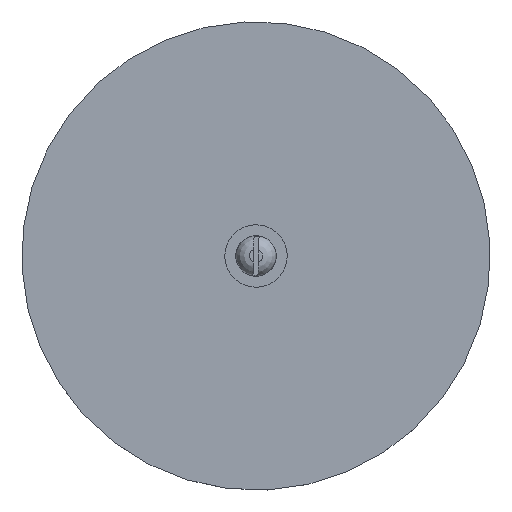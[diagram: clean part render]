
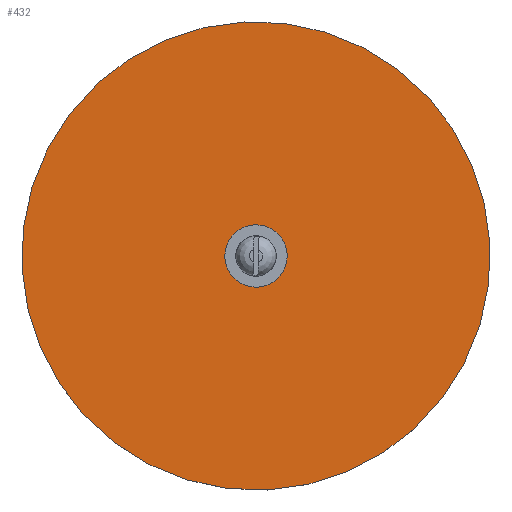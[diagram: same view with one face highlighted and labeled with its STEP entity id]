
A CAD part, top view. The second image highlights one B-rep face of the part: STEP entity #432.
In plain terms, the highlighted planar face has unit normal (0, 0, 1).
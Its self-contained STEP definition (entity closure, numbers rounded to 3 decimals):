
#58=FACE_BOUND('',#130,.T.);
#68=PLANE('',#562);
#97=FACE_OUTER_BOUND('',#129,.T.);
#129=EDGE_LOOP('',(#346));
#130=EDGE_LOOP('',(#347));
#194=CIRCLE('',#559,0.8);
#195=CIRCLE('',#561,15.);
#227=VERTEX_POINT('',#811);
#228=VERTEX_POINT('',#815);
#268=EDGE_CURVE('',#227,#227,#194,.T.);
#270=EDGE_CURVE('',#228,#228,#195,.T.);
#346=ORIENTED_EDGE('',*,*,#270,.T.);
#347=ORIENTED_EDGE('',*,*,#268,.T.);
#432=ADVANCED_FACE('',(#97,#58),#68,.T.);
#559=AXIS2_PLACEMENT_3D('',#812,#664,#665);
#561=AXIS2_PLACEMENT_3D('',#816,#669,#670);
#562=AXIS2_PLACEMENT_3D('',#818,#672,#673);
#664=DIRECTION('center_axis',(0.,0.,-1.));
#665=DIRECTION('ref_axis',(-1.,0.,0.));
#669=DIRECTION('center_axis',(0.,0.,1.));
#670=DIRECTION('ref_axis',(1.,0.,0.));
#672=DIRECTION('center_axis',(0.,0.,1.));
#673=DIRECTION('ref_axis',(1.,0.,0.));
#811=CARTESIAN_POINT('',(0.8,0.,0.4));
#812=CARTESIAN_POINT('Origin',(0.,0.,0.4));
#815=CARTESIAN_POINT('',(-15.,0.,0.4));
#816=CARTESIAN_POINT('Origin',(0.,0.,0.4));
#818=CARTESIAN_POINT('Origin',(0.,0.,0.4));
